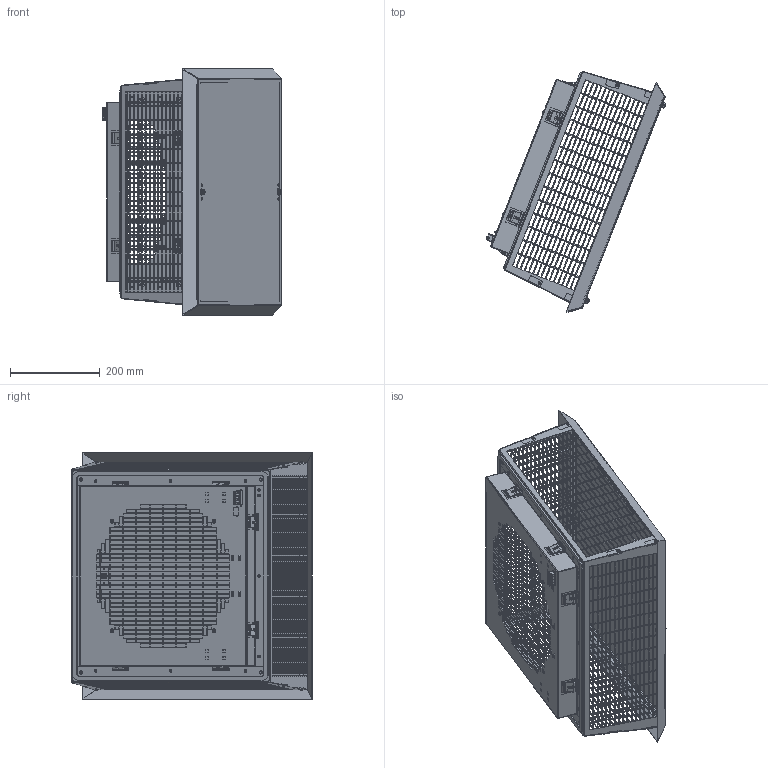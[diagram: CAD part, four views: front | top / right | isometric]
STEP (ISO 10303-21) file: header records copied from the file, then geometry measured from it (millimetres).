
FILE_DESCRIPTION((''),'2;1');
FILE_NAME('FL699X-COMPLETE_ASM_1_ASM','2022-04-26T09:30:42',('alexcam'),(''),'CREO PARAMETRIC BY PTC INC, 2018500','CREO PARAMETRIC BY PTC INC, 2018500','');
FILE_SCHEMA(('CONFIG_CONTROL_DESIGN'));
Products named in the file (23): FL699X-HOUSING_1; FL699X-GASKET1_1; FL699X-GASKET2_1; M3_X_6_AL_AL_RIVETED_1; KVT_FH_M4_12_ZP_1; FL699X-HOUSING_ASM_1_ASM; FL699X-INTAKE_1; FL6XXX-CLIP-FREE_1; FL6XXX-CLIP-FLEXED_1; MC-RJ7_62H04P_1_1; MC-RJ7_62H04P_1_2; MC-RJ7_62H04P_1_ASM; MC-7_62-4-PUSH-IN-ASSEMBLY_ASM__ASM; M4_X_12_7_AL_ST_RIVETED_1; FL699X-INTAKE_ASM_1_ASM; FL699X-CAPBRKT_ASM_1_ASM; FL699X-FANBRCKT_ASM_1_ASM; FL699X-COVER_1; D7-275-135-400_1; D7-265-720-190_1; FL6XXX-QUARTERTURN-SOUTHCO-X4_A_ASM; FL699X-COVER_ASM_1_ASM; FL699X-COMPLETE_ASM_1_ASM
Assembly tree (55 placements, depth 5):
  FL699X-COMPLETE_ASM_1_ASM
    FL699X-HOUSING_ASM_1_ASM
      FL699X-HOUSING_1
      FL699X-GASKET1_1
      FL699X-GASKET2_1
      M3_X_6_AL_AL_RIVETED_1  x8
      KVT_FH_M4_12_ZP_1
    FL699X-INTAKE_ASM_1_ASM
      FL699X-INTAKE_1
      FL6XXX-CLIP-FREE_1  x4
      FL6XXX-CLIP-FLEXED_1  x4
      MC-7_62-4-PUSH-IN-ASSEMBLY_ASM__ASM
        MC-RJ7_62H04P_1_ASM
          MC-RJ7_62H04P_1_1
          MC-RJ7_62H04P_1_2
      M4_X_12_7_AL_ST_RIVETED_1  x4
    FL699X-FANBRCKT_ASM_1_ASM
      FL699X-CAPBRKT_ASM_1_ASM
    FL699X-COVER_ASM_1_ASM
      FL699X-COVER_1
      M3_X_6_AL_AL_RIVETED_1  x4
      FL6XXX-QUARTERTURN-SOUTHCO-X4_A_ASM  x2
        D7-275-135-400_1
        D7-265-720-190_1
    M3_X_6_AL_AL_RIVETED_1  x12
Bounding box: 400.72 x 536.38 x 550.12 mm (x, y, z)
Volume: 968965.7 mm3; surface area: 1865781.8 mm2
Topology: 48 solids, 59 shells, 9313 faces, 26741 edges, 17576 vertices
Faces by surface type: plane 7882, cylinder 1067, bspline 124, torus 124, cone 100, sphere 16
Entity records: 254129 total; most frequent: CARTESIAN_POINT 48330, ORIENTED_EDGE 43990, DIRECTION 38013, EDGE_CURVE 21997, VECTOR 20293, LINE 20293, VERTEX_POINT 14469, EDGE_LOOP 10266
